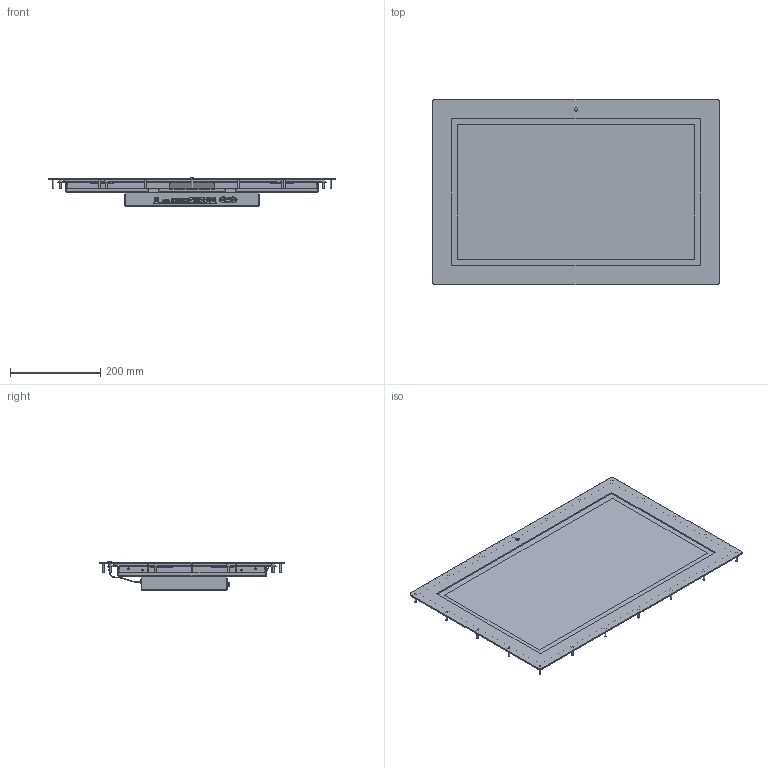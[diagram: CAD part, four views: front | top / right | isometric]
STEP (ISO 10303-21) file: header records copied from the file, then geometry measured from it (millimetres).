
FILE_DESCRIPTION (( 'STEP AP203' ), '1' );
FILE_NAME ('Z240-MON Assembly.STEP', '2025-11-28T10:37:12', ( '' ), ( '' ), 'SwSTEP 2.0', 'SolidWorks 2025', '' );
FILE_SCHEMA (( 'CONFIG_CONTROL_DESIGN' ));
Length unit declared in the file: millimetre
Products named in the file (26): AD-kit 15-24''''; ITD-Lichtsensor; SO-3,5M3-6-ZI Inpersafstandsteun; MPP-240-10 Mounting plate; BC-ITD-10 Backcover; PMZ-24-10 Panelmount; TFT-ITD-00 Backcover assembly_Monitor componenten; Afstandbus 4,2x8x5; OSD-sticker; MONB240-00 Assembly; VGA D-Sub right-angle; Led driver 24; sn sticker^TFT-ITD-00 Backcover assembly; Led driver 15-19; USB panelmount_Défaut; Essentra 465907; PKZ-240-10 Pakking; ITD-IO Input sticker; Led driver 21,5; DVI-I_默认; Z240-MON Assembly; ITD24KITT5HB01 display + sensor; HDMI_soldered
Assembly tree (61 placements, depth 4):
  Z240-MON Assembly
    MONB240-00 Assembly
      MPP-240-10 Mounting plate
        MPP-240-10 Mounting plate
        SO-3,5M3-6-ZI Inpersafstandsteun  x12
      ITD24KITT5HB01 display + sensor
    TFT-ITD-00 Backcover assembly_Monitor componenten
      BC-ITD-10 Backcover
        BC-ITD-10 Backcover
        SO-3,5M3-6-ZI Inpersafstandsteun  x18
      AD-kit 15-24''''
        AD-kit 15-24''''
        DVI-I_默认
        HDMI_soldered
        VGA D-Sub right-angle
      USB panelmount_Défaut
      sn sticker^TFT-ITD-00 Backcover assembly
      Led driver 15-19
      Led driver 21,5
      Led driver 24
      ITD-IO Input sticker
      OSD-sticker
    PMZ-24-10 Panelmount
    PKZ-240-10 Pakking
    ITD-Lichtsensor
    Essentra 465907
    Afstandbus 4,2x8x5  x8
Bounding box: 635 x 410 x 63.1 mm (x, y, z)
Volume: 636835.7 mm3; surface area: 1360417.7 mm2
Topology: 57 solids, 64 shells, 4143 faces, 11165 edges, 7323 vertices
Faces by surface type: plane 2944, cylinder 796, bspline 333, cone 46, torus 20, sphere 4
Full cylindrical faces by diameter (mm): 0.65 x15, 0.9 x15, 1 x1, 1.5 x1, 1.68 x2, 2.5 x30, 2.9 x2, 3 x4, 3.16 x2, 3.33 x2, 3.5 x33, 3.73 x2, 3.76 x2, 4 x32, 4.2 x8, 4.5 x6, 4.69 x2, 5 x32, 5.4 x30, 5.49 x30, 5.5 x4, 6 x3, 6.5 x2, 8 x16, 8.5 x1, 10 x1
Entity records: 137813 total; most frequent: CARTESIAN_POINT 39421, ORIENTED_EDGE 19842, DIRECTION 17929, EDGE_CURVE 10143, VECTOR 7891, LINE 7891, VERTEX_POINT 6795, AXIS2_PLACEMENT_3D 5019
